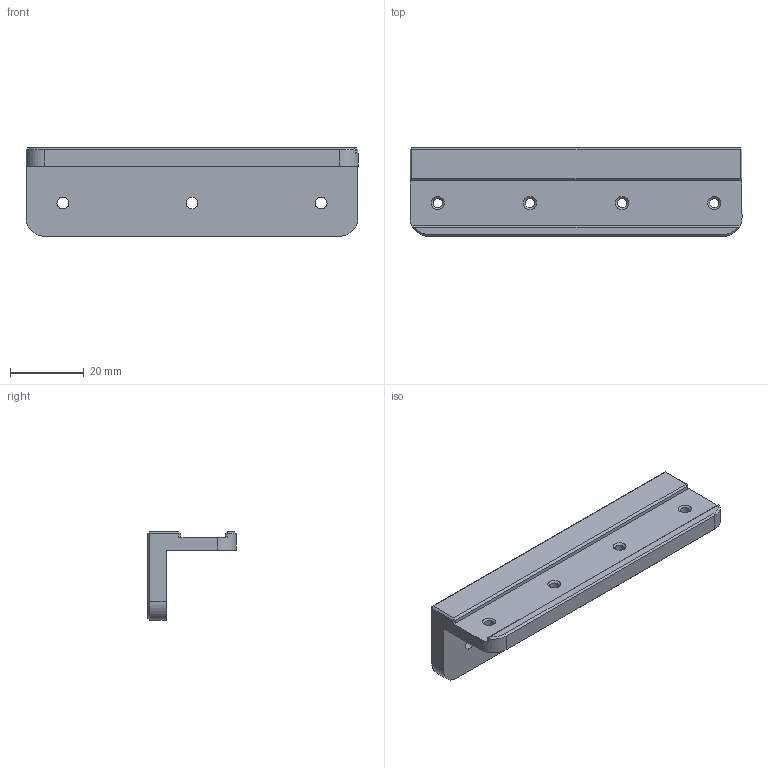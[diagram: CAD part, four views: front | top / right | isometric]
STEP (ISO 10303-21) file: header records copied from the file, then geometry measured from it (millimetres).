
FILE_DESCRIPTION(/* description */ (''),/* implementation_level */ '2;1');
FILE_NAME(/* name */ 'X Rail Angle bracket (x3).step',/* time_stamp */ '2023-07-15T20:08:31+02:00',/* author */ (''),/* organization */ (''),/* preprocessor_version */ 'ST-DEVELOPER v19.2',/* originating_system */ 'Autodesk Translation Framework v12.6.0.85',/* authorisation */ '');
FILE_SCHEMA (('AUTOMOTIVE_DESIGN { 1 0 10303 214 3 1 1 }'));
Length unit declared in the file: millimetre
Products named in the file (1): X Rail Angle bracket
Bounding box: 90 x 24 x 24 mm (x, y, z)
Volume: 17275 mm3; surface area: 9260.3 mm2
Topology: 1 solids, 1 shells, 56 faces, 125 edges, 74 vertices
Faces by surface type: plane 34, cylinder 14, cone 8
Full cylindrical faces by diameter (mm): 2.529 x4, 3.2 x3, 6.5 x3
Entity records: 1586 total; most frequent: DIRECTION 279, CARTESIAN_POINT 256, ORIENTED_EDGE 250, EDGE_CURVE 125, AXIS2_PLACEMENT_3D 97, LINE 85, VECTOR 85, VERTEX_POINT 74
